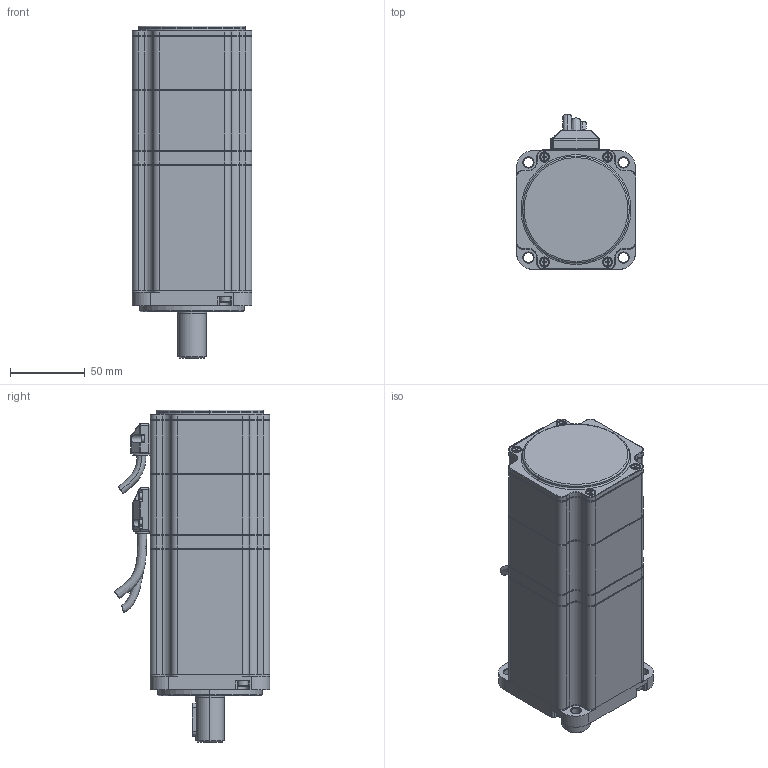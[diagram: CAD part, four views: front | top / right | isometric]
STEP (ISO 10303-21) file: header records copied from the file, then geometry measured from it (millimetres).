
FILE_DESCRIPTION (( 'STEP AP203' ), '1' );
FILE_NAME ('9.5629 SMC80S-0075-30ABK-3DSH.STEP', '2020-08-10T05:06:07', ( 'K' ), ( 'K' ), 'SwSTEP 2.0', 'SolidWorks 2018', '' );
FILE_SCHEMA (( 'CONFIG_CONTROL_DESIGN' ));
Length unit declared in the file: millimetre
Products named in the file (1): 9.5629 SMC80S-0075-30ABK-3DSH
Bounding box: 80 x 104.01 x 222.1 mm (x, y, z)
Volume: 405065.8 mm3; surface area: 241599.7 mm2
Topology: 65 solids, 65 shells, 2752 faces, 7246 edges, 4589 vertices
Faces by surface type: plane 1130, cylinder 1094, cone 257, torus 159, bspline 60, sphere 52
Entity records: 88804 total; most frequent: CARTESIAN_POINT 20072, DIRECTION 14937, ORIENTED_EDGE 14068, EDGE_CURVE 7034, AXIS2_PLACEMENT_3D 5704, VERTEX_POINT 4525, LINE 3529, VECTOR 3529
